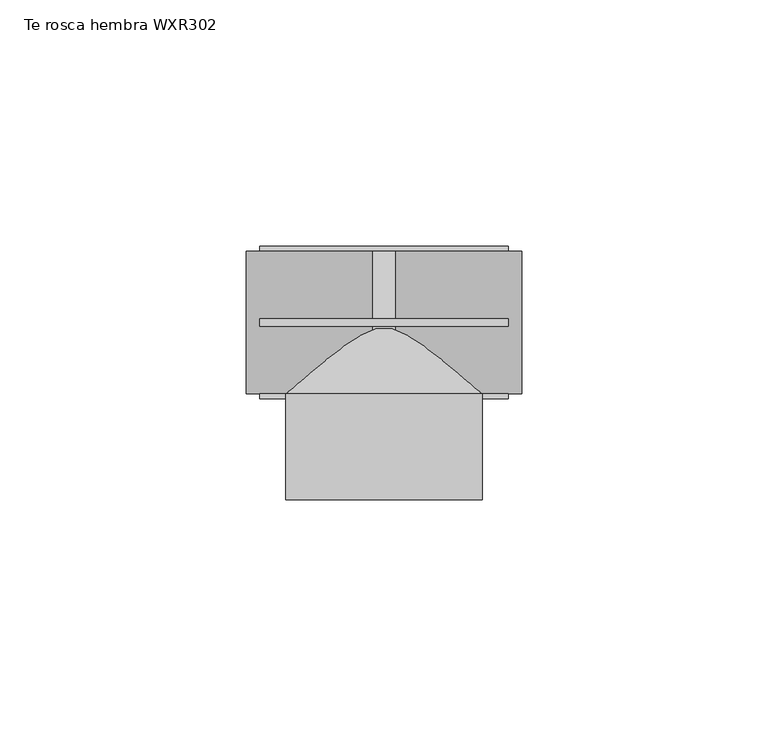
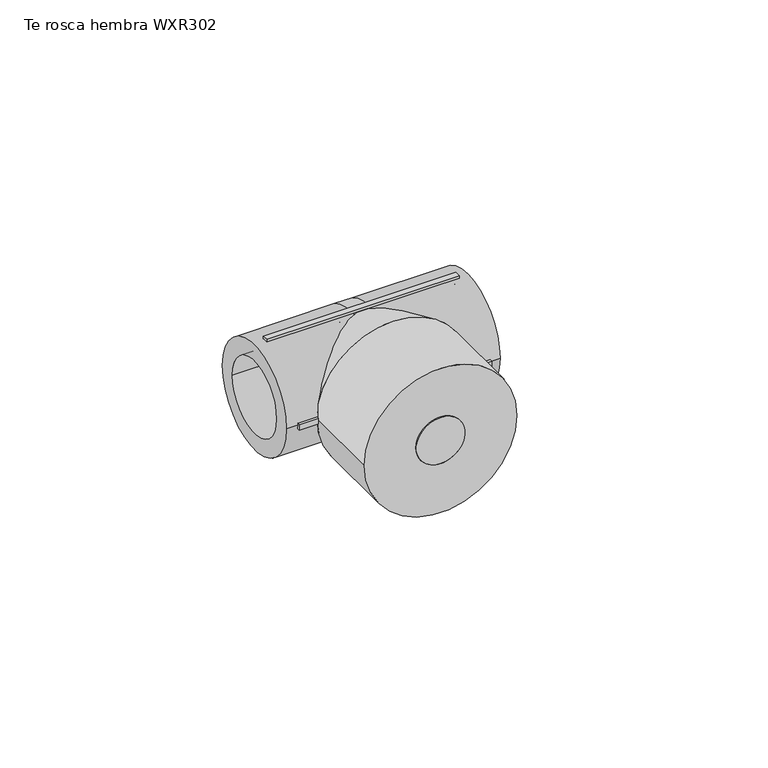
"""IFC4 building model written with IfcOpenShell, lengths in millimetres: pipe fitting geometry, EGB_VASEN_ PPR_Te rosca hembra WXR302 : Te rosca hembra WXR302."""

from ifc_helpers import new_model, si_unit, point, frame, origin, origin_2d, place, context, project, spatial, polyline, circle_curve, trimmed, segment, composite_curve, outline, extrude, source, transform, mapped, element, save
from ifc_brep_helpers import plane_surface, cylinder_surface, revolved_surface, advanced_brep


def te_rosca_hembra_wxr302_f4f22ba7(model_context):
    return source(origin(), model_context, "Body", "SolidModel", [
        extrude(outline(composite_curve([segment(trimmed(circle_curve(origin_2d(), 6.35), [point((-6.35, 0.0))], [point((6.35, 0.0))], False, "CARTESIAN"), True, "CONTINUOUS"), segment(trimmed(circle_curve(origin_2d(), 6.35), [point((6.35, 0.0))], [point((-6.35, 0.0))], False, "CARTESIAN"), True, "CONTINUOUS")], self_intersect=False)), frame((0.0, -36.0, 0.0), z_axis=(0.0, 1.0, 0.0), x_axis=(0.0, 0.0, 1.0)), (0.0, 0.0, 1.0), 21.5),
        advanced_brep(
        [(2.24, -10.0, 0.0), (2.24, 10.0, 0.0), (-2.24, 10.0, 0.0), (-2.24, -10.0, 0.0), (-2.24, 14.5, 0.0), (2.24, 14.5, 0.0), (2.24, -14.5, 0.0), (-2.24, -14.5, 0.0), (28.0, -14.5, 0.0), (28.0, 14.5, 0.0), (28.0, -10.0, 0.0), (28.0, 10.0, 0.0), (-28.0, -14.5, 0.0), (-28.0, 14.5, 0.0), (-28.0, -10.0, 0.0), (-28.0, 10.0, 0.0)],
        [
            (0, 1, circle_curve(frame((2.24, 0.0, 0.0), z_axis=(1.0, 0.0, 0.0), x_axis=(0.0, 1.0, 0.0)), 10.0)),
            (1, 0, circle_curve(frame((2.24, 0.0, 0.0), z_axis=(1.0, 0.0, 0.0), x_axis=(0.0, 1.0, 0.0)), 10.0)),
            (2, 3, circle_curve(frame((-2.24, 0.0, 0.0), z_axis=(-1.0, 0.0, 0.0), x_axis=(0.0, 1.0, 0.0)), 10.0)),
            (3, 2, circle_curve(frame((-2.24, 0.0, 0.0), z_axis=(-1.0, 0.0, 0.0), x_axis=(0.0, 1.0, 0.0)), 10.0)),
            (4, 5),
            (5, 6, circle_curve(frame((2.24, 0.0, 0.0), z_axis=(-1.0, 0.0, 0.0), x_axis=(0.0, 0.0, -1.0)), 14.5)),
            (6, 7),
            (7, 4, circle_curve(frame((-2.24, 0.0, 0.0), z_axis=(1.0, 0.0, 0.0), x_axis=(0.0, 0.0, -1.0)), 14.5)),
            (4, 7, circle_curve(frame((-2.24, 0.0, 0.0), z_axis=(1.0, 0.0, 0.0), x_axis=(0.0, 0.0, 1.0)), 14.5)),
            (6, 5, circle_curve(frame((2.24, 0.0, 0.0), z_axis=(-1.0, 0.0, 0.0), x_axis=(0.0, 0.0, 1.0)), 14.5)),
            (8, 9, circle_curve(frame((28.0, 0.0, 0.0), z_axis=(1.0, 0.0, 0.0), x_axis=(0.0, 1.0, 0.0)), 14.5)),
            (9, 8, circle_curve(frame((28.0, 0.0, 0.0), z_axis=(1.0, 0.0, 0.0), x_axis=(0.0, 1.0, 0.0)), 14.5)),
            (10, 11, circle_curve(frame((28.0, 0.0, 0.0), z_axis=(-1.0, 0.0, 0.0), x_axis=(0.0, 1.0, 0.0)), 10.0)),
            (11, 10, circle_curve(frame((28.0, 0.0, 0.0), z_axis=(-1.0, 0.0, 0.0), x_axis=(0.0, 1.0, 0.0)), 10.0)),
            (9, 5),
            (6, 8),
            (11, 1),
            (0, 10),
            (12, 13, circle_curve(frame((-28.0, 0.0, 0.0), z_axis=(-1.0, 0.0, 0.0), x_axis=(0.0, 1.0, 0.0)), 14.5)),
            (13, 12, circle_curve(frame((-28.0, 0.0, 0.0), z_axis=(-1.0, 0.0, 0.0), x_axis=(0.0, 1.0, 0.0)), 14.5)),
            (14, 15, circle_curve(frame((-28.0, 0.0, 0.0), z_axis=(1.0, 0.0, 0.0), x_axis=(0.0, 1.0, 0.0)), 10.0)),
            (15, 14, circle_curve(frame((-28.0, 0.0, 0.0), z_axis=(1.0, 0.0, 0.0), x_axis=(0.0, 1.0, 0.0)), 10.0)),
            (12, 7),
            (4, 13),
            (14, 3),
            (2, 15),
        ],
        [
            plane_surface(frame((2.24, 0.0, 0.0), z_axis=(1.0, 0.0, 0.0), x_axis=(0.0, 0.0, -1.0))),
            plane_surface(frame((-2.24, 0.0, 0.0), z_axis=(-1.0, 0.0, 0.0), x_axis=(0.0, 0.0, -1.0))),
            cylinder_surface(frame((-2.24, 0.0, 0.0), z_axis=(1.0, 0.0, 0.0), x_axis=(0.0, 0.0, -1.0)), 14.5),
            cylinder_surface(frame((-2.24, 0.0, 0.0), z_axis=(1.0, 0.0, 0.0), x_axis=(0.0, 0.0, 1.0)), 14.5),
            plane_surface(frame((28.0, 0.0, 0.0), z_axis=(1.0, 0.0, 0.0), x_axis=(0.0, 0.0, 1.0))),
            cylinder_surface(frame((2.24, 0.0, 0.0), z_axis=(-1.0, 0.0, 0.0), x_axis=(0.0, 1.0, 0.0)), 14.5),
            revolved_surface(polyline([(28.0, 10.0, 0.0), (2.24, 10.0, 0.0)]), (2.24, 0.0, 0.0), (1.0, 0.0, 0.0)),
            plane_surface(frame((-28.0, 0.0, 0.0), z_axis=(-1.0, 0.0, 0.0), x_axis=(0.0, 0.0, 1.0))),
            cylinder_surface(frame((-28.0, 0.0, 0.0), z_axis=(-1.0, 0.0, 0.0), x_axis=(0.0, 1.0, 0.0)), 14.5),
            revolved_surface(polyline([(-2.240000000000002, 10.0, 0.0), (-28.0, 10.0, 0.0)]), (-28.0, 0.0, 0.0), (1.0, 0.0, 0.0)),
        ],
        [
            (0, [[1, 2]]),
            (1, [[3, 4]]),
            (2, [[5, 6, 7, 8]]),
            (3, [[-5, 9, -7, 10]]),
            (4, [[11, 12], [13, 14]]),
            (5, [[-12, 15, -10, 16]]),
            (5, [[-11, -16, -6, -15]]),
            (6, [[-14, 17, -1, 18]]),
            (6, [[-13, -18, -2, -17]]),
            (7, [[19, 20], [21, 22]]),
            (8, [[-19, 23, -9, 24]]),
            (8, [[-20, -24, -8, -23]]),
            (9, [[-21, 25, -3, 26]]),
            (9, [[-22, -26, -4, -25]]),
        ],
    ),
        extrude(outline(composite_curve([segment(trimmed(circle_curve(origin_2d(), 20.0), [point((0.0, 20.0))], [point((0.0, -20.0))], False, "CARTESIAN"), True, "CONTINUOUS"), segment(trimmed(circle_curve(origin_2d(), 20.0), [point((0.0, -20.0))], [point((0.0, 20.0))], False, "CARTESIAN"), True, "CONTINUOUS")], self_intersect=False), holes=[composite_curve([segment(trimmed(circle_curve(origin_2d(), 6.35), [point((0.0, 6.35))], [point((0.0, -6.35))], True, "CARTESIAN"), True, "CONTINUOUS"), segment(trimmed(circle_curve(origin_2d(), 6.35), [point((0.0, -6.35))], [point((0.0, 6.35))], True, "CARTESIAN"), True, "CONTINUOUS")], self_intersect=False)]), frame((0.0, -36.0, 0.0), z_axis=(0.0, 1.0, 0.0), x_axis=(0.0, 0.0, 1.0)), (0.0, 0.0, 1.0), 21.5),
        advanced_brep(
        [(14.5, 0.0, 0.0), (-14.5, 0.0, 0.0), (20.0, -14.5, 0.0), (-20.0, -14.5, 0.0)],
        [
            (0, 1, circle_curve(frame((0.0, 0.0, 0.0), z_axis=(0.0, 1.0, 0.0), x_axis=(1.0, 0.0, 0.0)), 14.5)),
            (1, 0, circle_curve(frame((0.0, 0.0, 0.0), z_axis=(0.0, 1.0, 0.0), x_axis=(-1.0, 0.0, 0.0)), 14.5)),
            (2, 3, circle_curve(frame((0.0, -14.5, 0.0), z_axis=(0.0, -1.0, 0.0), x_axis=(-1.0, 0.0, 0.0)), 20.0)),
            (3, 2, circle_curve(frame((0.0, -14.5, 0.0), z_axis=(0.0, -1.0, 0.0), x_axis=(1.0, 0.0, 0.0)), 20.0)),
            (3, 1),
            (0, 2),
        ],
        [
            plane_surface(frame((0.0, 0.0, 0.0), z_axis=(0.0, 1.0, 0.0), x_axis=(0.0, 0.0, -1.0))),
            plane_surface(frame((0.0, -14.5, 0.0), z_axis=(0.0, -1.0, 0.0), x_axis=(0.0, 0.0, -1.0))),
            revolved_surface(polyline([(14.499999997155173, 0.0, 0.0), (20.0, -14.5, 0.0)]), (0.0, 38.2272727, 0.0), (0.0, -1.0, 0.0)),
            revolved_surface(polyline([(-14.499999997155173, 0.0, 0.0), (-20.0, -14.5, 0.0)]), (0.0, 38.2272727, 0.0), (0.0, -1.0, 0.0)),
        ],
        [
            (0, [[1, 2]]),
            (1, [[3, 4]]),
            (2, [[-4, 5, -1, 6]]),
            (3, [[-3, -6, -2, -5]]),
        ],
    ),
        extrude(outline(polyline([(25.2, 0.75), (25.2, -0.75), (-25.2, -0.75), (-25.2, 0.75), (25.2, 0.75)])), frame((0.0, 0.0, 13.5), z_axis=(0.0, 0.0, 1.0), x_axis=(1.0, 0.0, 0.0)), (0.0, 0.0, 1.0), 2.0),
        extrude(outline(polyline([(25.2, 0.75), (25.2, -0.75), (-25.2, -0.75), (-25.2, 0.75), (25.2, 0.75)])), frame((0.0, 0.0, -15.5), z_axis=(0.0, 0.0, 1.0), x_axis=(1.0, 0.0, 0.0)), (0.0, 0.0, 1.0), 2.0),
        extrude(outline(polyline([(25.2, 15.5), (25.2, 13.5), (-25.2, 13.5), (-25.2, 15.5), (25.2, 15.5)])), frame((0.0, 0.0, -0.75), z_axis=(0.0, 0.0, 1.0), x_axis=(1.0, 0.0, 0.0)), (0.0, 0.0, 1.0), 1.5),
        extrude(outline(polyline([(25.2, -13.5), (25.2, -15.5), (-25.2, -15.5), (-25.2, -13.5), (25.2, -13.5)])), frame((0.0, 0.0, -0.75), z_axis=(0.0, 0.0, 1.0), x_axis=(1.0, 0.0, 0.0)), (0.0, 0.0, 1.0), 1.5),
    ])


if __name__ == "__main__":
    model = new_model("IFC4")
    model_context = context("Model", 3, world=origin())
    ifc_project = project(units=[si_unit("LENGTHUNIT", "METRE", prefix="MILLI")], contexts=[model_context])
    site = spatial("IfcSite", under=ifc_project)
    building = spatial("IfcBuilding", under=site)
    placement = place(None, origin())
    te_rosca_hembra_wxr302_shape = te_rosca_hembra_wxr302_f4f22ba7(model_context)
    element("IfcPipeFitting", 1, ObjectType="EGB_VASEN_ PPR_Te rosca hembra WXR302 : Te rosca hembra WXR302", at=placement, inside=building, context=model_context, shape_type="MappedRepresentation", body=[
        mapped(te_rosca_hembra_wxr302_shape, transform((0.0, 0.0, 0.0), x_axis=(1.0, 0.0, 0.0), y_axis=(0.0, 1.0, 0.0), z_axis=(0.0, 0.0, 1.0))),
    ])
    save(model, "model.ifc")
